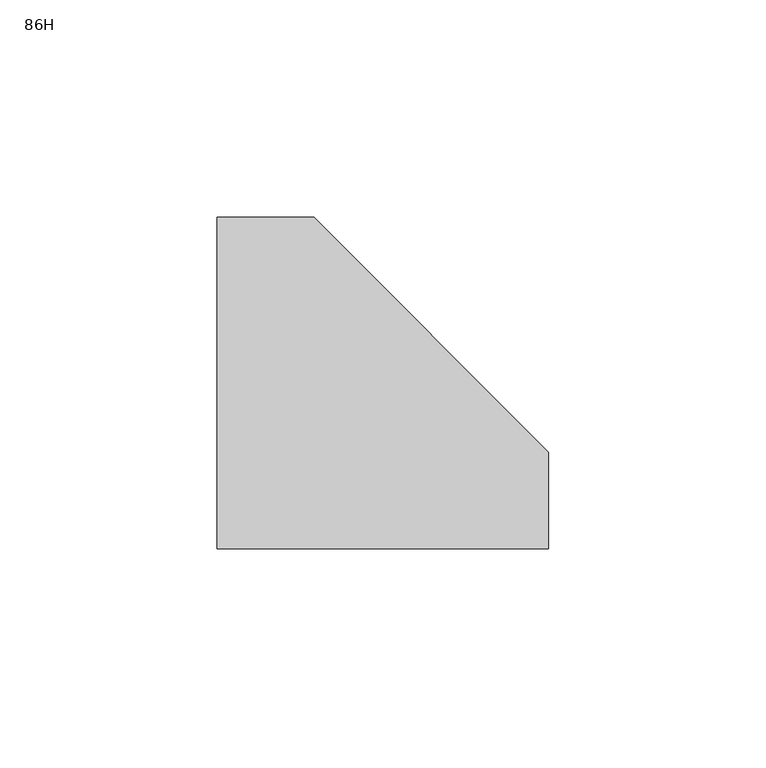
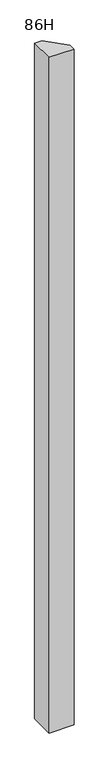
"""IFC4 building model written with IfcOpenShell, lengths in millimetres: furniture geometry, Steelcase - Montage - Junction - L Chamfered- Same-Height : 86H."""

from ifc_helpers import new_model, si_unit, frame, origin, place, context, project, spatial, polyline, outline, extrude, source, transform, mapped, element, save


def furniture_86h_3fd3b045(model_context):
    return source(origin(), model_context, "Body", "SweptSolid", [
        extrude(outline(polyline([(533.4, -15.8750015), (533.4, -38.1000015), (457.2, -38.1000015), (457.2, 38.1000015), (479.424997, 38.1000015), (533.4, -15.8750015)])), frame((0.0, 0.0, 4.064), z_axis=(0.0, 0.0, 1.0), x_axis=(1.0, 0.0, 0.0)), (0.0, 0.0, 1.0), 2180.336),
    ])


if __name__ == "__main__":
    model = new_model("IFC4")
    model_context = context("Model", 3, world=origin())
    ifc_project = project(units=[si_unit("LENGTHUNIT", "METRE", prefix="MILLI")], contexts=[model_context])
    site = spatial("IfcSite", under=ifc_project)
    building = spatial("IfcBuilding", under=site)
    placement = place(None, origin())
    furniture_86h_shape = furniture_86h_3fd3b045(model_context)
    element("IfcFurniture", 1, ObjectType="Steelcase - Montage - Junction - L Chamfered- Same-Height : 86H", at=placement, inside=building, context=model_context, shape_type="MappedRepresentation", body=[
        mapped(furniture_86h_shape, transform((0.0, 0.0, 0.0), x_axis=(1.0, 0.0, 0.0), y_axis=(0.0, 1.0, 0.0), z_axis=(0.0, 0.0, 1.0))),
    ])
    save(model, "model.ifc")
